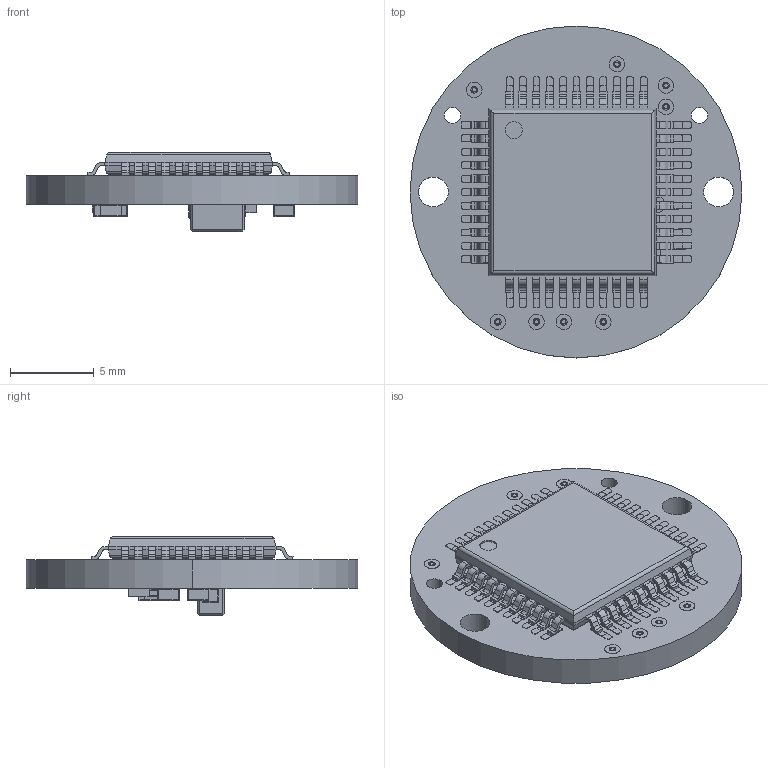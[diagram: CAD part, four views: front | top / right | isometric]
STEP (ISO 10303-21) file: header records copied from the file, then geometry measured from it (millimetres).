
FILE_DESCRIPTION (( 'STEP AP214' ), '1' );
FILE_NAME ('RMB20PC_MODM001.STEP', '2017-07-14T09:57:43', ( '' ), ( '' ), 'SwSTEP 2.0', 'SolidWorks 2016', '' );
FILE_SCHEMA (( 'AUTOMOTIVE_DESIGN' ));
Length unit declared in the file: millimetre
Products named in the file (1): RMB20PC_MODM001
Bounding box: 19.8 x 19.8 x 4.72 mm (x, y, z)
Volume: 670.7 mm3; surface area: 1518.5 mm2
Topology: 213 solids, 213 shells, 2769 faces, 6585 edges, 4246 vertices
Faces by surface type: plane 1625, bspline 888, cylinder 256
Entity records: 142881 total; most frequent: CARTESIAN_POINT 56031, ORIENTED_EDGE 13122, DIRECTION 7351, EDGE_CURVE 6561, VERTEX_POINT 4246, B_SPLINE_CURVE_WITH_KNOTS 3390, UNCERTAINTY_MEASURE_WITH_UNIT 2981, MECHANICAL_DESIGN_GEOMETRIC_PRESENTATION_REPRESENTATION 2980
